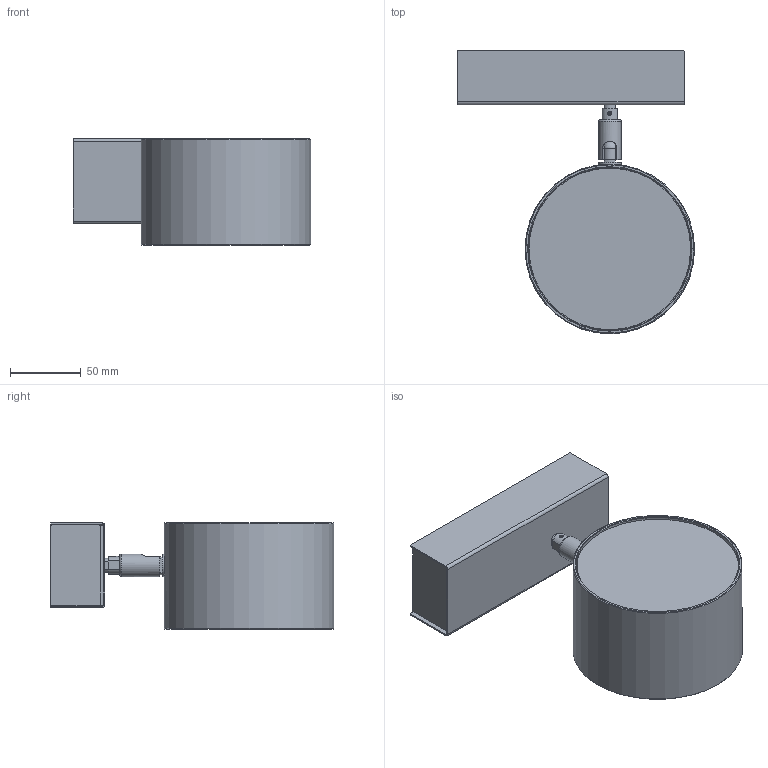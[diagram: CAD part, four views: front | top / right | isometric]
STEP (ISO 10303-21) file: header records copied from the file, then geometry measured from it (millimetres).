
FILE_DESCRIPTION(/* description */ (''),/* implementation_level */ '2;1');
FILE_NAME(/* name */ 'SPOT CASAMBI.stp',/* time_stamp */ '2023-02-17T10:55:35+01:00',/* author */ ('n.bisotti'),/* organization */ (''),/* preprocessor_version */ 'ST-DEVELOPER v19.2',/* originating_system */ 'Autodesk Inventor 2023',/* authorisation */ '');
FILE_SCHEMA (('AUTOMOTIVE_DESIGN { 1 0 10303 214 3 1 1 }'));
Length unit declared in the file: millimetre
Products named in the file (1): Parte2
Bounding box: 167.3 x 200 x 75 mm (x, y, z)
Volume: 306321.4 mm3; surface area: 181735.6 mm2
Topology: 10 solids, 10 shells, 229 faces, 539 edges, 338 vertices
Faces by surface type: plane 126, cylinder 87, cone 13, sphere 2, torus 1
Full cylindrical faces by diameter (mm): 2.459 x3, 3 x1, 6.8 x1, 8.917 x1, 10 x1, 13.5 x1, 16 x2, 107 x1, 109 x1, 111.5 x1, 112.5 x2, 114 x1, 115 x1, 117 x1, 119.6 x1
Entity records: 7007 total; most frequent: CARTESIAN_POINT 1289, DIRECTION 1162, ORIENTED_EDGE 1072, EDGE_CURVE 536, AXIS2_PLACEMENT_3D 423, VERTEX_POINT 338, LINE 316, VECTOR 316
